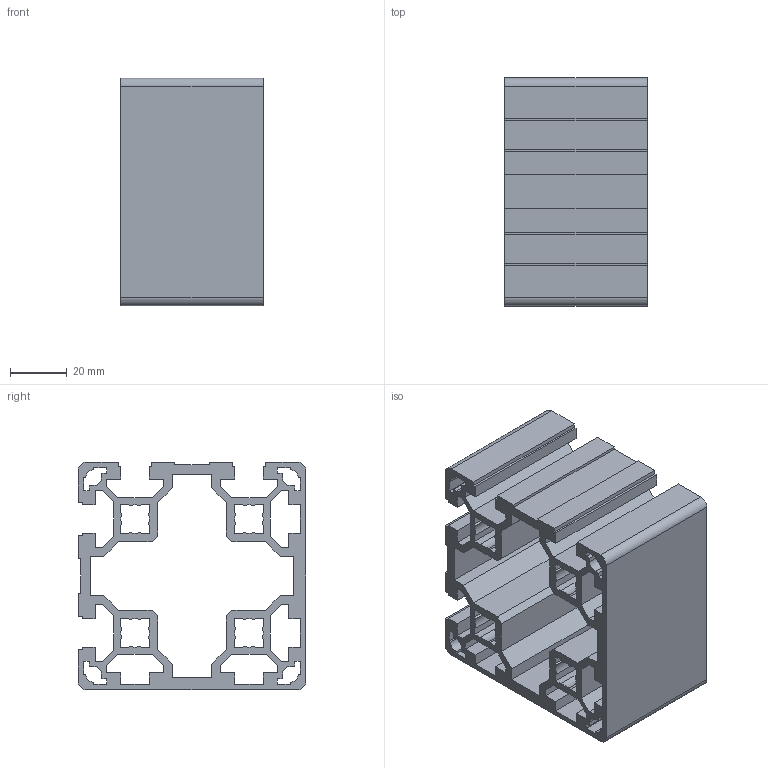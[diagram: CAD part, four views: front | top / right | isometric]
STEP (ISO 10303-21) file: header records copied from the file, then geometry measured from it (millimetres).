
FILE_DESCRIPTION(('no description'),'unknown implementation level');
FILE_NAME('3842993658_115923919.stp',' ',('Bosch Rexroth AG'),('CADClick - KiM GmbH - www.kimweb.de'),'unknown preprocess','ACIS','unknown authorization');
FILE_SCHEMA(('automotive_design'));
Length unit declared in the file: millimetre
Products named in the file (1): 1
Bounding box: 50 x 80 x 80 mm (x, y, z)
Volume: 96239.3 mm3; surface area: 66980.6 mm2
Topology: 1 solids, 1 shells, 274 faces, 816 edges, 544 vertices
Faces by surface type: plane 246, cylinder 28
Entity records: 18124 total; most frequent: STYLED_ITEM 1635, PRESENTATION_STYLE_ASSIGNMENT 1635, CARTESIAN_POINT 1635, COLOUR_RGB 1635, ORIENTED_EDGE 1632, DIRECTION 1422, EDGE_CURVE 816, CURVE_STYLE 816
